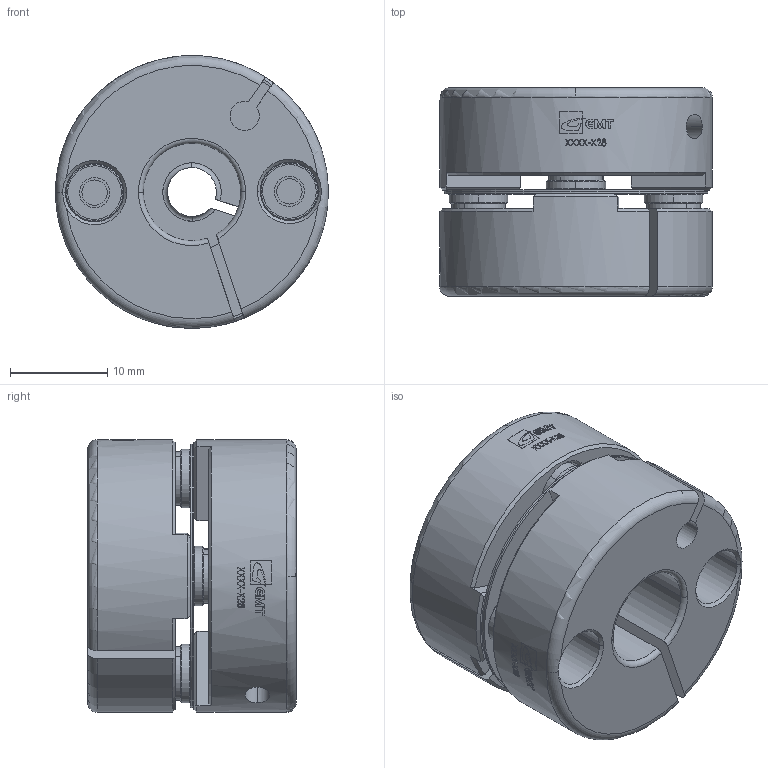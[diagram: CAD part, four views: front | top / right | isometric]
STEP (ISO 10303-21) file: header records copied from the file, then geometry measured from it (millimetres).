
FILE_DESCRIPTION (( 'STEP AP203' ), '1' );
FILE_NAME ('FACC-S28.STEP', '2008-04-04T05:11:34', ( '陳志豪' ), ( '高明鐵企業股份有限公司' ), 'SwSTEP 2.0', 'SolidWorks 2007', '' );
FILE_SCHEMA (( 'CONFIG_CONTROL_DESIGN' ));
Length unit declared in the file: millimetre
Products named in the file (1): FACC-S28
Bounding box: 28 x 21.4 x 28 mm (x, y, z)
Surface area: 6629.4 mm2 (no closed solid volume)
Topology: 0 solids, 15 shells, 298 faces, 1381 edges, 1022 vertices
Faces by surface type: bspline 86, cylinder 84, plane 68, cone 44, torus 16
Entity records: 16508 total; most frequent: CARTESIAN_POINT 6978, ORIENTED_EDGE 1974, DIRECTION 1500, EDGE_CURVE 1377, VERTEX_POINT 1018, B_SPLINE_CURVE_WITH_KNOTS 701, AXIS2_PLACEMENT_3D 611, CIRCLE 398
